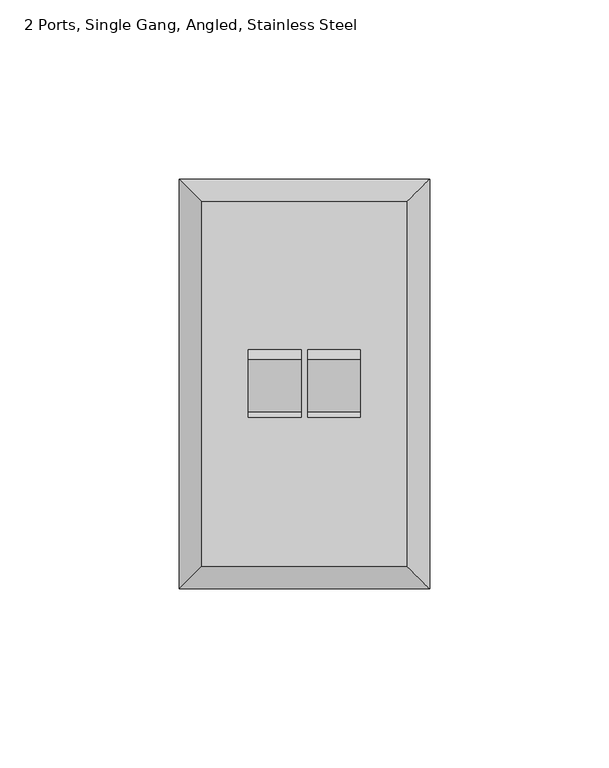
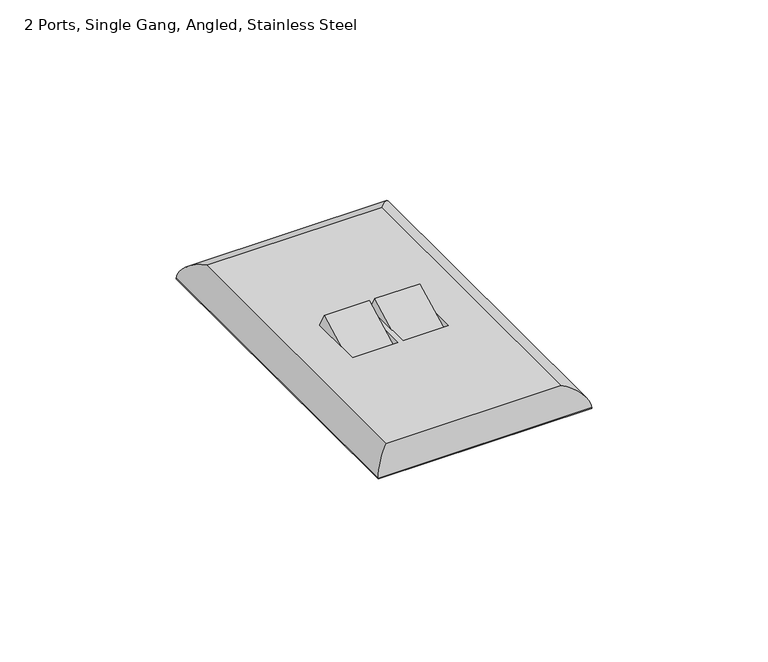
"""IFC4 building model written with IfcOpenShell, lengths in millimetres: electric appliance geometry, Data_Device-Work_Area-Leviton-QuickPort-Wallplate : 2 Ports, Single Gang, Angled, Stainless Steel."""

from ifc_helpers import new_model, si_unit, frame, origin, origin_with_axes, place, context, project, spatial, polyline, ellipse_curve, outline, extrude, source, transform, mapped, element, save
from ifc_brep_helpers import plane_surface, cylinder_surface, advanced_brep


def electric_appliance_2_ports_single_gang_angled_stainless_4c033270(model_context):
    return source(origin(), model_context, "Body", "SolidModel", [
        extrude(outline(polyline([(0.0, -16.5099999), (0.0, 0.0), (14.732, 0.0), (14.732, -16.5099999), (0.0, -16.5099999)])), frame((-7.3914, 3.3027569, -2.12579), z_axis=(0.0, -0.45585538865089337, 0.8900538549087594), x_axis=(-1.0, 0.0, 0.0)), (0.0, 0.0, 1.0), 6.35),
        extrude(outline(polyline([(31.2674, 0.0), (31.2674, -16.5099999), (16.5354, -16.5099999), (16.5354, 0.0), (31.2674, 0.0)])), frame((-7.3914, 3.3027569, -2.12579), z_axis=(0.0, -0.45585538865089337, 0.8900538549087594), x_axis=(-1.0, 0.0, 0.0)), (0.0, 0.0, 1.0), 6.35),
        advanced_brep(
        [(5.5499, -42.6085, 6.35), (5.5499, 58.9915, 6.35), (-51.6001, 58.9915, 6.35), (-51.6001, -42.6085, 6.35), (-7.3914, 17.5111842, 6.35), (-7.3914, -1.0382552, 6.35), (-22.1234, -1.0382552, 6.35), (-22.1234, 17.5111842, 6.35), (-23.9268, 17.5111842, 6.35), (-23.9268, -1.0382552, 6.35), (-38.6588, -1.0382552, 6.35), (-38.6588, 17.5111842, 6.35), (11.8999, 65.3415, 0.0), (11.8999, -48.9585, 0.0), (-57.9501, -48.9585, 0.0), (-57.9501, 65.3415, 0.0), (-7.3914, 2.2139994, 0.0), (-7.3914, 20.7634387, 0.0), (-22.1234, 20.7634387, 0.0), (-22.1234, 2.2139994, 0.0), (-23.9268, 2.2139994, 0.0), (-23.9268, 20.7634387, 0.0), (-38.6588, 20.7634387, 0.0), (-38.6588, 2.2139994, 0.0), (-57.9501, 65.3415, 0.254), (11.8999, 65.3415, 0.254), (-57.9501, -48.9585, 0.254), (11.8999, -48.9585, 0.254)],
        [
            (0, 1),
            (1, 2),
            (2, 3),
            (3, 0),
            (4, 5),
            (5, 6),
            (6, 7),
            (7, 4),
            (8, 9),
            (9, 10),
            (10, 11),
            (11, 8),
            (12, 13),
            (13, 14),
            (14, 15),
            (15, 12),
            (16, 17),
            (17, 18),
            (18, 19),
            (19, 16),
            (20, 21),
            (21, 22),
            (22, 23),
            (23, 20),
            (15, 24),
            (24, 25),
            (25, 12),
            (14, 26),
            (26, 24),
            (13, 27),
            (27, 26),
            (25, 27),
            (4, 17),
            (16, 5),
            (19, 6),
            (18, 7),
            (8, 21),
            (20, 9),
            (23, 10),
            (22, 11),
            (0, 27, ellipse_curve(frame((5.5499, -42.6085, -0.0052917), z_axis=(0.7071067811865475, 0.7071067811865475, 0.0), x_axis=(0.7071067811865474, -0.7071067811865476, 0.0)), 8.9877397, 6.3552917)),
            (25, 1, ellipse_curve(frame((5.5499, 58.9915, -0.0052917), z_axis=(0.7071067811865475, -0.7071067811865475, 0.0), x_axis=(-0.7071067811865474, -0.7071067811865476, 0.0)), 8.9877397, 6.3552917)),
            (3, 26, ellipse_curve(frame((-51.6001, -42.6085, -0.0052917), z_axis=(0.7071067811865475, -0.7071067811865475, 0.0), x_axis=(-0.7071067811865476, -0.7071067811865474, 0.0)), 8.9877397, 6.3552917)),
            (2, 24, ellipse_curve(frame((-51.6001, 58.9915, -0.0052917), z_axis=(-0.7071067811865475, -0.7071067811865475, 0.0), x_axis=(-0.7071067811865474, 0.7071067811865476, 0.0)), 8.9877397, 6.3552917)),
        ],
        [
            plane_surface(frame((-57.9501, 65.3415, 6.35), z_axis=(0.0, 0.0, 1.0), x_axis=(-1.0, 0.0, 0.0))),
            plane_surface(frame((-57.9501, 65.3415, 0.0), z_axis=(0.0, 0.0, -1.0), x_axis=(1.0, 0.0, 0.0))),
            plane_surface(frame((11.8999, 65.3415, 6.35), z_axis=(0.0, 1.0, 0.0), x_axis=(0.0, 0.0, -1.0))),
            plane_surface(frame((-57.9501, 65.3415, 6.35), z_axis=(-1.0, 0.0, 0.0), x_axis=(0.0, 0.0, -1.0))),
            plane_surface(frame((-57.9501, -48.9585, 6.35), z_axis=(0.0, -1.0, 0.0), x_axis=(0.0, 0.0, -1.0))),
            plane_surface(frame((11.8999, -48.9585, 6.35), z_axis=(1.0, 0.0, 0.0), x_axis=(0.0, 0.0, -1.0))),
            plane_surface(frame((-7.3914, 22.0501005, -2.5121963), z_axis=(-1.0, 0.0, 0.0), x_axis=(0.0, -0.4558553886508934, 0.8900538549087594))),
            plane_surface(frame((-7.3914, 7.3553113, -10.0383688), z_axis=(0.0, 0.8900538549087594, 0.45585538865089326), x_axis=(0.0, -0.45585538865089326, 0.8900538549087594))),
            plane_surface(frame((-22.1234, 7.3553113, -10.0383688), z_axis=(1.0, 0.0, 0.0), x_axis=(0.0, -0.4558553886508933, 0.8900538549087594))),
            plane_surface(frame((-22.1234, 22.0501005, -2.5121963), z_axis=(0.0, -0.8900538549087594, -0.4558553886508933), x_axis=(0.0, -0.4558553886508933, 0.8900538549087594))),
            plane_surface(frame((-23.9268, 22.0501005, -2.5121963), z_axis=(-1.0, 0.0, 0.0), x_axis=(0.0, -0.4558553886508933, 0.8900538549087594))),
            plane_surface(frame((-23.9268, 7.3553113, -10.0383688), z_axis=(0.0, 0.8900538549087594, 0.4558553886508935), x_axis=(0.0, -0.4558553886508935, 0.8900538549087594))),
            plane_surface(frame((-38.6588, 7.3553113, -10.0383688), z_axis=(1.0000000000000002, 0.0, 0.0), x_axis=(0.0, -0.4558553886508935, 0.8900538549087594))),
            plane_surface(frame((-38.6588, 22.0501005, -2.5121963), z_axis=(0.0, -0.8900538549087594, -0.4558553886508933), x_axis=(0.0, -0.4558553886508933, 0.8900538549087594))),
            cylinder_surface(frame((5.5499, 65.3415, -0.0052917), z_axis=(0.0, -1.0, 0.0), x_axis=(1.0, 0.0, 0.0)), 6.3552917),
            cylinder_surface(frame((11.8999, -42.6085, -0.0052917), z_axis=(-1.0, 0.0, 0.0), x_axis=(0.0, -1.0, 0.0)), 6.3552917),
            cylinder_surface(frame((-51.6001, -48.9585, -0.0052917), z_axis=(0.0, 1.0, 0.0), x_axis=(-1.0, 0.0, 0.0)), 6.3552917),
            cylinder_surface(frame((-57.9501, 58.9915, -0.0052917), z_axis=(1.0, 0.0, 0.0), x_axis=(0.0, 1.0, 0.0)), 6.3552917),
        ],
        [
            (0, [[1, 2, 3, 4], [5, 6, 7, 8], [9, 10, 11, 12]]),
            (1, [[13, 14, 15, 16], [17, 18, 19, 20], [21, 22, 23, 24]]),
            (2, [[-16, 25, 26, 27]]),
            (3, [[-15, 28, 29, -25]]),
            (4, [[-14, 30, 31, -28]]),
            (5, [[-13, -27, 32, -30]]),
            (6, [[33, -17, 34, -5]]),
            (7, [[-34, -20, 35, -6]]),
            (8, [[-35, -19, 36, -7]]),
            (9, [[-33, -8, -36, -18]]),
            (10, [[37, -21, 38, -9]]),
            (11, [[-38, -24, 39, -10]]),
            (12, [[-39, -23, 40, -11]]),
            (13, [[-37, -12, -40, -22]]),
            (14, [[41, -32, 42, -1]]),
            (15, [[-41, -4, 43, -31]]),
            (16, [[-43, -3, 44, -29]]),
            (17, [[-42, -26, -44, -2]]),
        ],
    ),
        extrude(outline(polyline([(11.6459, 65.0875), (11.6459, -48.7045), (-57.6961, -48.7045), (-57.6961, 65.0875), (11.6459, 65.0875)])), origin_with_axes(), (0.0, 0.0, 1.0), 0.254),
    ])


if __name__ == "__main__":
    model = new_model("IFC4")
    model_context = context("Model", 3, world=origin())
    ifc_project = project(units=[si_unit("LENGTHUNIT", "METRE", prefix="MILLI")], contexts=[model_context])
    site = spatial("IfcSite", under=ifc_project)
    building = spatial("IfcBuilding", under=site)
    placement = place(None, origin())
    electric_appliance_2_ports_single_gang_angled_stainless_shape = electric_appliance_2_ports_single_gang_angled_stainless_4c033270(model_context)
    element("IfcElectricAppliance", 1, ObjectType="Data_Device-Work_Area-Leviton-QuickPort-Wallplate : 2 Ports, Single Gang, Angled, Stainless Steel", at=placement, inside=building, context=model_context, shape_type="MappedRepresentation", body=[
        mapped(electric_appliance_2_ports_single_gang_angled_stainless_shape, transform((0.0, 0.0, 0.0), x_axis=(1.0, 0.0, 0.0), y_axis=(0.0, 1.0, 0.0), z_axis=(0.0, 0.0, 1.0))),
    ])
    save(model, "model.ifc")
